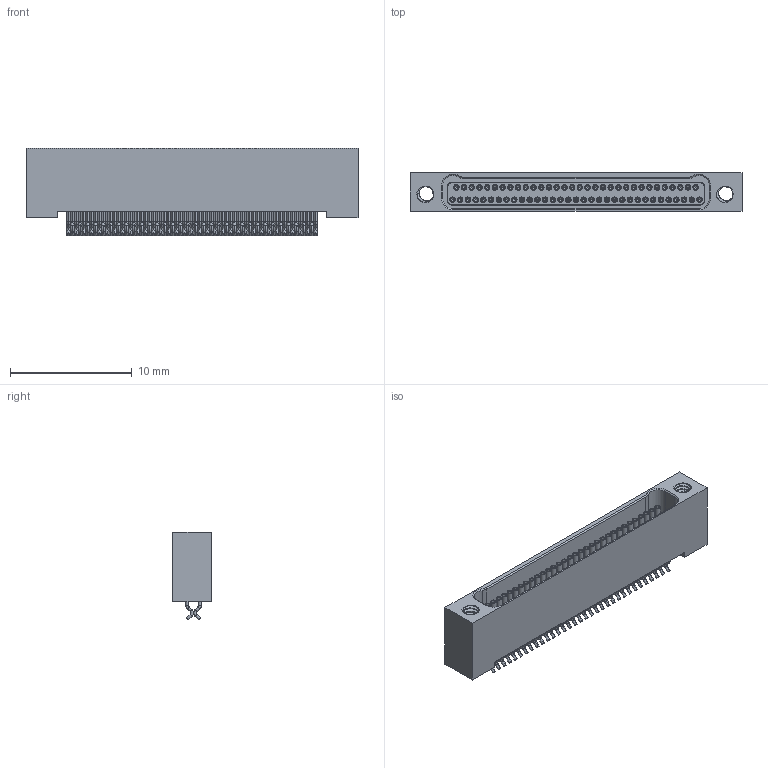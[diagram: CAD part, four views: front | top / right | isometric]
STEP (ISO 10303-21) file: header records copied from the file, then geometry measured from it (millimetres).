
FILE_DESCRIPTION (( 'STEP AP214' ), '1' );
FILE_NAME ('A29300-065 REV J.STEP', '2021-03-03T20:10:37', ( '' ), ( '' ), 'SwSTEP 2.0', 'SolidWorks 2019', '' );
FILE_SCHEMA (( 'AUTOMOTIVE_DESIGN' ));
Length unit declared in the file: inch
Products named in the file (1): A29300-065 REV J
Bounding box: 27.3 x 3.19 x 7.23 mm (x, y, z)
Volume: 299.2 mm3; surface area: 1326.7 mm2
Topology: 1 solids, 4 shells, 1488 faces, 3343 edges, 1943 vertices
Faces by surface type: cylinder 746, plane 284, torus 260, cone 144, bspline 54
Entity records: 67891 total; most frequent: CARTESIAN_POINT 15685, DIRECTION 7425, ORIENTED_EDGE 6426, EDGE_CURVE 3213, AXIS2_PLACEMENT_3D 3057, VERTEX_POINT 1943, EDGE_LOOP 1702, CIRCLE 1622
